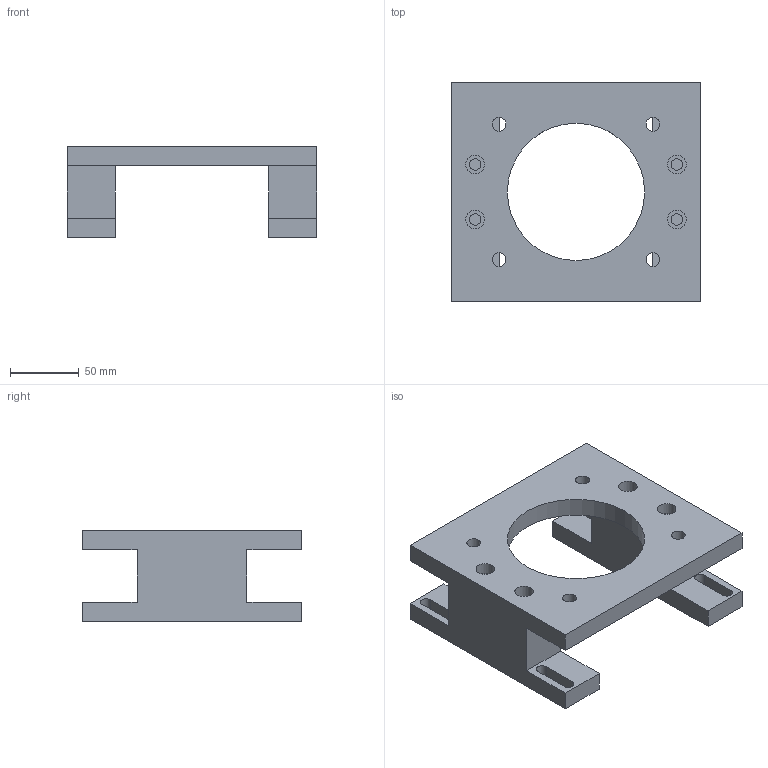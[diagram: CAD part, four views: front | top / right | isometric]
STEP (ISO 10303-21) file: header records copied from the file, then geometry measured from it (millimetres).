
FILE_DESCRIPTION(/* description */ (''),/* implementation_level */ '2;1');
FILE_NAME(/* name */ 'Marathon-Motor-Mount-PM-833TV.step',/* time_stamp */ '2023-12-22T10:55:36-05:00',/* author */ (''),/* organization */ (''),/* preprocessor_version */ 'ST-DEVELOPER v20',/* originating_system */ 'Autodesk Translation Framework v12.14.0.127',/* authorisation */ '');
FILE_SCHEMA (('AUTOMOTIVE_DESIGN { 1 0 10303 214 3 1 1 }'));
Length unit declared in the file: millimetre
Products named in the file (1): Marathon-Motor-Mount
Bounding box: 182 x 160 x 66 mm (x, y, z)
Volume: 632887.2 mm3; surface area: 105507.6 mm2
Topology: 1 solids, 1 shells, 59 faces, 147 edges, 98 vertices
Faces by surface type: plane 38, cylinder 21
Full cylindrical faces by diameter (mm): 8.3 x4, 10 x4, 13.5 x4, 100 x1
Entity records: 1832 total; most frequent: DIRECTION 309, CARTESIAN_POINT 305, ORIENTED_EDGE 294, EDGE_CURVE 147, LINE 105, VECTOR 105, AXIS2_PLACEMENT_3D 102, VERTEX_POINT 98
